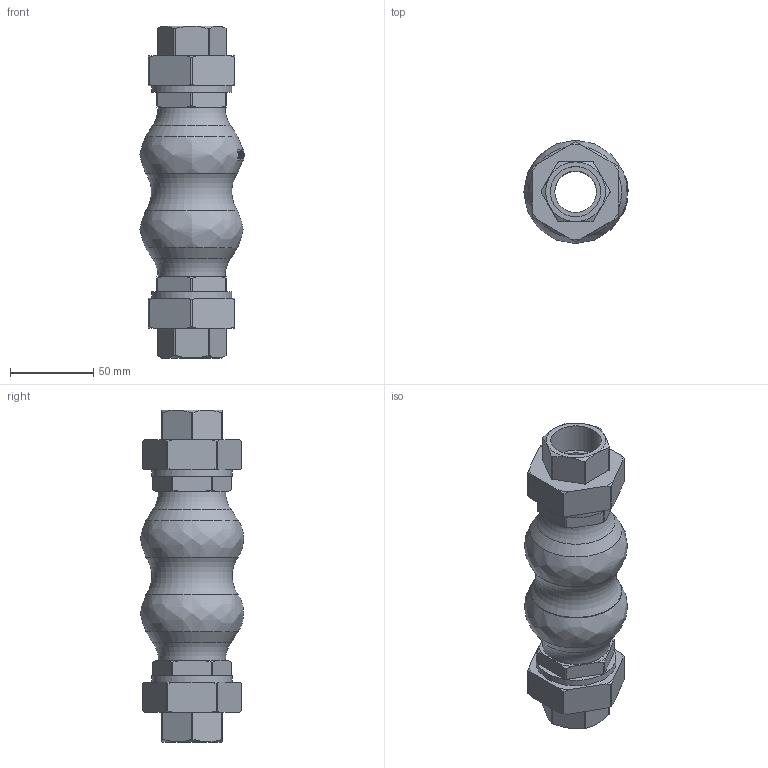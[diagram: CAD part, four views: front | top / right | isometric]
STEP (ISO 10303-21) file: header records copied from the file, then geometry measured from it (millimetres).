
FILE_DESCRIPTION(('STEP AP214'), '1');
FILE_NAME('CR-E17-T Êîìïåíñàòîð ðåçèíîâûé DN.ru Äó25 Ðó10-16', '2026-02-18T04:47:50', ('DN.RU'), (''), 'C3D Converter', 'C3D Toolkit', '');
FILE_SCHEMA(('AUTOMOTIVE_DESIGN { 1 0 10303 214 3 1 1}'));
Length unit declared in the file: millimetre
Products named in the file (1): CR-E17-T
Bounding box: 62.7 x 62.21 x 200 mm (x, y, z)
Volume: 291172.4 mm3; surface area: 55243.6 mm2
Topology: 1 solids, 1 shells, 203 faces, 552 edges, 368 vertices
Faces by surface type: plane 85, cone 42, cylinder 41, bspline 32, torus 3
Full cylindrical faces by diameter (mm): 25 x1, 30.291 x2, 48.291 x2
Entity records: 16921 total; most frequent: CARTESIAN_POINT 10615, ORIENTED_EDGE 1072, DIRECTION 716, EDGE_CURVE 536, VERTEX_POINT 368, AXIS2_PLACEMENT_3D 262, B_SPLINE_CURVE_WITH_KNOTS 254, EDGE_LOOP 238
